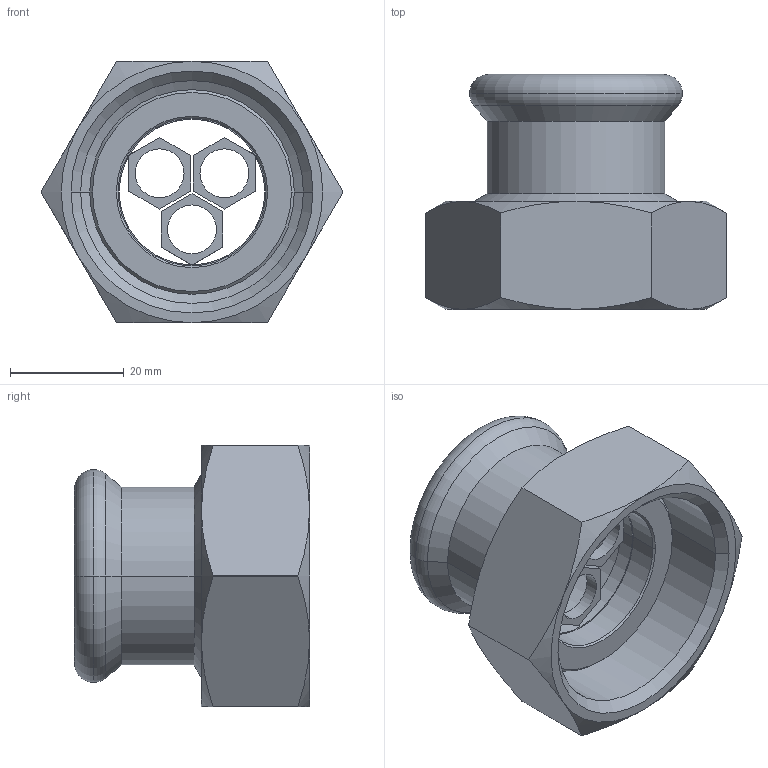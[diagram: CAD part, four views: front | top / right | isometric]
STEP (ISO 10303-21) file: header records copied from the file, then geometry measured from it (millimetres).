
FILE_DESCRIPTION(('OneSpaceDesigner STEP Export'),'2;1');
FILE_NAME('R2705 28xR1 1-4.stp','2010-06-09T 9:48:57',(''),(''),'OneSpace Designer STEP processor for AP214 (Solid Model)','OneSpace Modeling 15.00A 14-Mar-2007 (C) CoCreate Software GmbH','');
FILE_SCHEMA(('AUTOMOTIVE_DESIGN { 1 0 10303 214 1 1 1 1 }'));
Length unit declared in the file: millimetre
Products named in the file (2): R2704_28xG1.1-4
Assembly tree (1 placements, depth 2):
  R2704_28xG1.1-4
    R2704_28xG1.1-4
Bounding box: 53.12 x 41.33 x 46 mm (x, y, z)
Volume: 21401.5 mm3; surface area: 14116.2 mm2
Topology: 1 solids, 1 shells, 114 faces, 267 edges, 162 vertices
Faces by surface type: plane 39, cylinder 35, cone 32, torus 8
Entity records: 3646 total; most frequent: CARTESIAN_POINT 1367, ORIENTED_EDGE 534, DIRECTION 363, EDGE_CURVE 267, VERTEX_POINT 162, EDGE_LOOP 129, VECTOR 127, LINE 127
